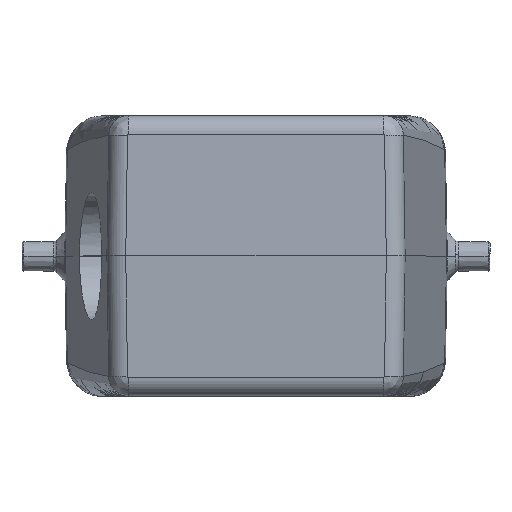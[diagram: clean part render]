
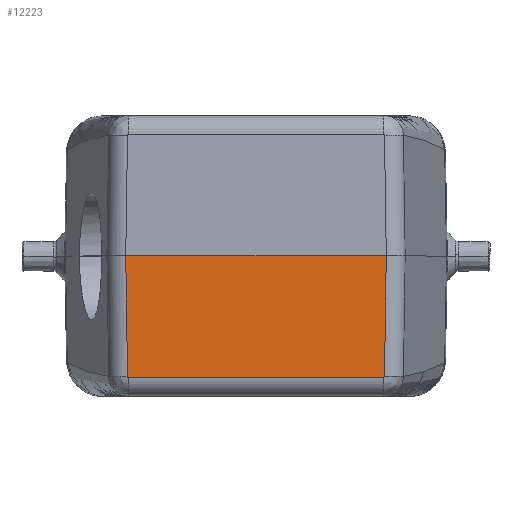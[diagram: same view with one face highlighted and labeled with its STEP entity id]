
A CAD part, top view. The second image highlights one B-rep face of the part: STEP entity #12223.
In plain terms, the highlighted planar face has unit normal (0, -0.018, 1).
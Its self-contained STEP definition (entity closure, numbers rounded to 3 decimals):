
#92 = VERTEX_POINT ( 'NONE', #18286 ) ;
#115 = B_SPLINE_CURVE_WITH_KNOTS ( 'NONE', 3,
 ( #2091, #12855, #19790, #2312 ),
 .UNSPECIFIED., .F., .F.,
 ( 4, 4 ),
 ( 0., 1. ),
 .UNSPECIFIED. ) ;
#173 = ORIENTED_EDGE ( 'NONE', *, *, #21719, .F. ) ;
#733 = PLANE ( 'NONE',  #14646 ) ;
#1749 = CARTESIAN_POINT ( 'NONE',  ( -20.153, -18.923, 59.67 ) ) ;
#2091 = CARTESIAN_POINT ( 'NONE',  ( -20.153, -18.923, 59.67 ) ) ;
#2312 = CARTESIAN_POINT ( 'NONE',  ( -20.43, 0., 60. ) ) ;
#2398 = VERTEX_POINT ( 'NONE', #9646 ) ;
#2495 = CARTESIAN_POINT ( 'NONE',  ( -82.947, 0., 60. ) ) ;
#2863 = ORIENTED_EDGE ( 'NONE', *, *, #13473, .F. ) ;
#3248 = EDGE_CURVE ( 'NONE', #11255, #92, #12635, .T. ) ;
#4330 = DIRECTION ( 'NONE',  ( 1., 0., 0. ) ) ;
#4480 = CARTESIAN_POINT ( 'NONE',  ( 20.138, -18.987, 59.669 ) ) ;
#5318 = CARTESIAN_POINT ( 'NONE',  ( -20.152, -18.959, 59.669 ) ) ;
#6032 = CARTESIAN_POINT ( 'NONE',  ( -82.947, -19.052, 59.667 ) ) ;
#6428 = CARTESIAN_POINT ( 'NONE',  ( 20.153, -18.917, 59.67 ) ) ;
#7664 = CARTESIAN_POINT ( 'NONE',  ( 20.43, 0., 60. ) ) ;
#7849 = CARTESIAN_POINT ( 'NONE',  ( 20.153, -18.917, 59.67 ) ) ;
#7920 = VECTOR ( 'NONE', #4330, 1000. ) ;
#8177 = DIRECTION ( 'NONE',  ( 0., -0.017, 1. ) ) ;
#8617 = B_SPLINE_CURVE_WITH_KNOTS ( 'NONE', 3,
 ( #1749, #5318, #14063, #17440, #14140, #10286 ),
 .UNSPECIFIED., .F., .F.,
 ( 4, 2, 4 ),
 ( 0., 0.5, 1. ),
 .UNSPECIFIED. ) ;
#8664 = VERTEX_POINT ( 'NONE', #19633 ) ;
#9636 = DIRECTION ( 'NONE',  ( -0.015, -1., -0.017 ) ) ;
#9646 = CARTESIAN_POINT ( 'NONE',  ( -20.43, 0., 60. ) ) ;
#10027 = DIRECTION ( 'NONE',  ( 0., -1., -0.017 ) ) ;
#10286 = CARTESIAN_POINT ( 'NONE',  ( -20.021, -19.052, 59.667 ) ) ;
#10520 = EDGE_LOOP ( 'NONE', ( #173, #19962, #2863, #21336, #14101, #22325 ) ) ;
#10692 = FACE_OUTER_BOUND ( 'NONE', #10520, .T. ) ;
#10888 = LINE ( 'NONE', #2495, #19703 ) ;
#11255 = VERTEX_POINT ( 'NONE', #20066 ) ;
#12223 = ADVANCED_FACE ( 'NONE', ( #10692 ), #733, .T. ) ;
#12635 = LINE ( 'NONE', #6032, #7920 ) ;
#12855 = CARTESIAN_POINT ( 'NONE',  ( -20.245, -12.616, 59.78 ) ) ;
#13227 = CARTESIAN_POINT ( 'NONE',  ( 20.015, -19.052, 59.667 ) ) ;
#13473 = EDGE_CURVE ( 'NONE', #8664, #2398, #115, .T. ) ;
#14063 = CARTESIAN_POINT ( 'NONE',  ( -20.139, -18.99, 59.669 ) ) ;
#14101 = ORIENTED_EDGE ( 'NONE', *, *, #3248, .T. ) ;
#14140 = CARTESIAN_POINT ( 'NONE',  ( -20.057, -19.052, 59.667 ) ) ;
#14646 = AXIS2_PLACEMENT_3D ( 'NONE', #18364, #8177, #10027 ) ;
#14820 = DIRECTION ( 'NONE',  ( -1., 0., 0. ) ) ;
#14834 = LINE ( 'NONE', #7664, #16742 ) ;
#14938 = CARTESIAN_POINT ( 'NONE',  ( 20.152, -18.955, 59.669 ) ) ;
#15015 = CARTESIAN_POINT ( 'NONE',  ( 20.085, -19.039, 59.668 ) ) ;
#15211 = EDGE_CURVE ( 'NONE', #20315, #2398, #10888, .T. ) ;
#16495 = B_SPLINE_CURVE_WITH_KNOTS ( 'NONE', 3,
 ( #13227, #18408, #15015, #4480, #14938, #7849 ),
 .UNSPECIFIED., .F., .F.,
 ( 4, 2, 4 ),
 ( 0., 0.5, 1. ),
 .UNSPECIFIED. ) ;
#16742 = VECTOR ( 'NONE', #9636, 1000. ) ;
#17059 = EDGE_CURVE ( 'NONE', #8664, #11255, #8617, .T. ) ;
#17083 = VERTEX_POINT ( 'NONE', #6428 ) ;
#17440 = CARTESIAN_POINT ( 'NONE',  ( -20.088, -19.04, 59.668 ) ) ;
#18286 = CARTESIAN_POINT ( 'NONE',  ( 20.015, -19.052, 59.667 ) ) ;
#18364 = CARTESIAN_POINT ( 'NONE',  ( -82.947, 0., 60. ) ) ;
#18408 = CARTESIAN_POINT ( 'NONE',  ( 20.052, -19.052, 59.667 ) ) ;
#19633 = CARTESIAN_POINT ( 'NONE',  ( -20.153, -18.923, 59.67 ) ) ;
#19703 = VECTOR ( 'NONE', #14820, 1000. ) ;
#19790 = CARTESIAN_POINT ( 'NONE',  ( -20.338, -6.308, 59.89 ) ) ;
#19962 = ORIENTED_EDGE ( 'NONE', *, *, #15211, .T. ) ;
#20066 = CARTESIAN_POINT ( 'NONE',  ( -20.021, -19.052, 59.667 ) ) ;
#20315 = VERTEX_POINT ( 'NONE', #20961 ) ;
#20830 = EDGE_CURVE ( 'NONE', #92, #17083, #16495, .T. ) ;
#20961 = CARTESIAN_POINT ( 'NONE',  ( 20.43, 0., 60. ) ) ;
#21336 = ORIENTED_EDGE ( 'NONE', *, *, #17059, .T. ) ;
#21719 = EDGE_CURVE ( 'NONE', #20315, #17083, #14834, .T. ) ;
#22325 = ORIENTED_EDGE ( 'NONE', *, *, #20830, .T. ) ;
